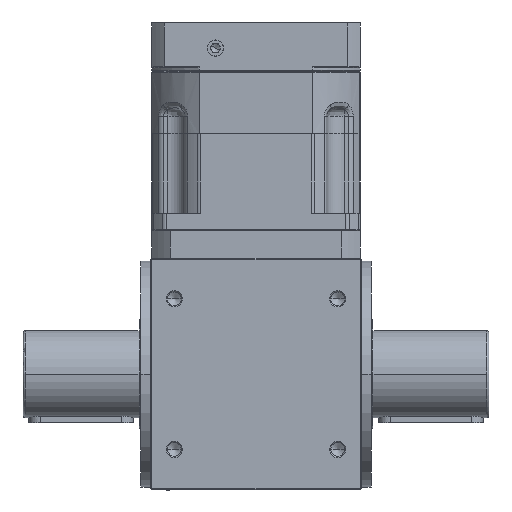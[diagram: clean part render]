
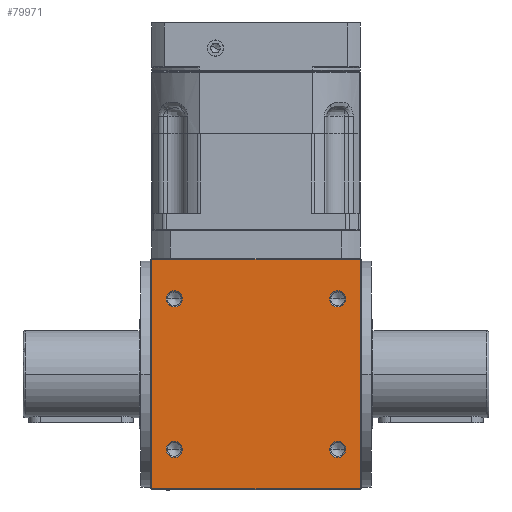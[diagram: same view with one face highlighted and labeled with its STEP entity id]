
A CAD part, front view. The second image highlights one B-rep face of the part: STEP entity #79971.
In plain terms, the highlighted planar face has unit normal (0, -1, 0) as drawn and (0, 0, -1) by its records, which use the part's own axes.
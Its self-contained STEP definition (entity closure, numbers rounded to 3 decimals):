
#1459 = VERTEX_POINT ( 'NONE', #69322 ) ;
#2825 = DIRECTION ( 'NONE',  ( 0., 1., 0. ) ) ;
#3597 = DIRECTION ( 'NONE',  ( -1., 0., 0. ) ) ;
#5202 = DIRECTION ( 'NONE',  ( 0., 0., 1. ) ) ;
#6141 = AXIS2_PLACEMENT_3D ( 'NONE', #101720, #52847, #3597 ) ;
#6817 = VERTEX_POINT ( 'NONE', #40803 ) ;
#8209 = CARTESIAN_POINT ( 'NONE',  ( 91., 99., -100. ) ) ;
#9163 = CIRCLE ( 'NONE', #24795, 7. ) ;
#9370 = LINE ( 'NONE', #75616, #28739 ) ;
#9885 = FACE_BOUND ( 'NONE', #90872, .T. ) ;
#11932 = AXIS2_PLACEMENT_3D ( 'NONE', #37105, #94295, #45365 ) ;
#12690 = ORIENTED_EDGE ( 'NONE', *, *, #91793, .F. ) ;
#18833 = AXIS2_PLACEMENT_3D ( 'NONE', #77046, #28061, #85305 ) ;
#19622 = ORIENTED_EDGE ( 'NONE', *, *, #41857, .F. ) ;
#19852 = CARTESIAN_POINT ( 'NONE',  ( 70.5, 58., -100. ) ) ;
#21478 = PLANE ( 'NONE',  #46522 ) ;
#21693 = EDGE_LOOP ( 'NONE', ( #50658, #68825 ) ) ;
#22073 = VERTEX_POINT ( 'NONE', #35393 ) ;
#22535 = ORIENTED_EDGE ( 'NONE', *, *, #91946, .F. ) ;
#23902 = CIRCLE ( 'NONE', #43076, 7. ) ;
#23982 = DIRECTION ( 'NONE',  ( 0., 0., -1. ) ) ;
#24795 = AXIS2_PLACEMENT_3D ( 'NONE', #27517, #84740, #35659 ) ;
#27517 = CARTESIAN_POINT ( 'NONE',  ( -70.5, 65., -100. ) ) ;
#28061 = DIRECTION ( 'NONE',  ( 0., 0., -1. ) ) ;
#28710 = CIRCLE ( 'NONE', #18833, 7. ) ;
#28739 = VECTOR ( 'NONE', #83854, 1000. ) ;
#30122 = VERTEX_POINT ( 'NONE', #80688 ) ;
#30703 = CARTESIAN_POINT ( 'NONE',  ( 70.5, -65., -100. ) ) ;
#31009 = VERTEX_POINT ( 'NONE', #90063 ) ;
#31199 = EDGE_CURVE ( 'NONE', #40333, #69478, #9163, .T. ) ;
#31782 = FACE_BOUND ( 'NONE', #66604, .T. ) ;
#34110 = LINE ( 'NONE', #45215, #75147 ) ;
#34742 = AXIS2_PLACEMENT_3D ( 'NONE', #100925, #52083, #2825 ) ;
#35393 = CARTESIAN_POINT ( 'NONE',  ( -77.5, -65., -100. ) ) ;
#35659 = DIRECTION ( 'NONE',  ( 0., 1., 0. ) ) ;
#36523 = CARTESIAN_POINT ( 'NONE',  ( -70.5, 72., -100. ) ) ;
#37105 = CARTESIAN_POINT ( 'NONE',  ( 70.5, 65., -100. ) ) ;
#38759 = ORIENTED_EDGE ( 'NONE', *, *, #90375, .F. ) ;
#38922 = DIRECTION ( 'NONE',  ( 0., 1., 0. ) ) ;
#40333 = VERTEX_POINT ( 'NONE', #86059 ) ;
#40803 = CARTESIAN_POINT ( 'NONE',  ( -90., -99., -100. ) ) ;
#41464 = VECTOR ( 'NONE', #78402, 1000. ) ;
#41857 = EDGE_CURVE ( 'NONE', #81345, #100322, #73403, .T. ) ;
#42696 = CIRCLE ( 'NONE', #78485, 7. ) ;
#43076 = AXIS2_PLACEMENT_3D ( 'NONE', #97910, #49044, #106153 ) ;
#44077 = VERTEX_POINT ( 'NONE', #19852 ) ;
#44819 = CARTESIAN_POINT ( 'NONE',  ( 70.5, -72., -100. ) ) ;
#45215 = CARTESIAN_POINT ( 'NONE',  ( 90., 100., -100. ) ) ;
#45365 = DIRECTION ( 'NONE',  ( 0., 1., 0. ) ) ;
#46522 = AXIS2_PLACEMENT_3D ( 'NONE', #54470, #5202, #62684 ) ;
#49044 = DIRECTION ( 'NONE',  ( 0., 0., -1. ) ) ;
#49954 = ORIENTED_EDGE ( 'NONE', *, *, #91643, .F. ) ;
#50658 = ORIENTED_EDGE ( 'NONE', *, *, #93816, .F. ) ;
#52083 = DIRECTION ( 'NONE',  ( 0., 0., -1. ) ) ;
#52512 = CARTESIAN_POINT ( 'NONE',  ( 90., 99., -100. ) ) ;
#52847 = DIRECTION ( 'NONE',  ( 0., 0., -1. ) ) ;
#53493 = DIRECTION ( 'NONE',  ( 0., 1., 0. ) ) ;
#53611 = FACE_BOUND ( 'NONE', #21693, .T. ) ;
#54470 = CARTESIAN_POINT ( 'NONE',  ( 91., 100., -100. ) ) ;
#57326 = CIRCLE ( 'NONE', #34742, 7. ) ;
#61739 = VERTEX_POINT ( 'NONE', #52512 ) ;
#62684 = DIRECTION ( 'NONE',  ( 0., -1., 0. ) ) ;
#65196 = CARTESIAN_POINT ( 'NONE',  ( -90., 99., -100. ) ) ;
#65604 = DIRECTION ( 'NONE',  ( 1., 0., 0. ) ) ;
#65792 = LINE ( 'NONE', #70231, #41464 ) ;
#66604 = EDGE_LOOP ( 'NONE', ( #69854, #69460 ) ) ;
#68825 = ORIENTED_EDGE ( 'NONE', *, *, #103031, .F. ) ;
#69322 = CARTESIAN_POINT ( 'NONE',  ( -63.5, -65., -100. ) ) ;
#69460 = ORIENTED_EDGE ( 'NONE', *, *, #104552, .F. ) ;
#69478 = VERTEX_POINT ( 'NONE', #36523 ) ;
#69854 = ORIENTED_EDGE ( 'NONE', *, *, #92266, .F. ) ;
#70231 = CARTESIAN_POINT ( 'NONE',  ( 91., -99., -100. ) ) ;
#71093 = LINE ( 'NONE', #8209, #104213 ) ;
#72773 = FACE_OUTER_BOUND ( 'NONE', #85728, .T. ) ;
#73027 = CARTESIAN_POINT ( 'NONE',  ( 70.5, -65., -100. ) ) ;
#73403 = CIRCLE ( 'NONE', #74014, 7. ) ;
#74014 = AXIS2_PLACEMENT_3D ( 'NONE', #30703, #87917, #38922 ) ;
#75147 = VECTOR ( 'NONE', #53493, 1000. ) ;
#75616 = CARTESIAN_POINT ( 'NONE',  ( -90., 100., -100. ) ) ;
#77046 = CARTESIAN_POINT ( 'NONE',  ( 70.5, 65., -100. ) ) ;
#78402 = DIRECTION ( 'NONE',  ( 1., 0., 0. ) ) ;
#78485 = AXIS2_PLACEMENT_3D ( 'NONE', #73027, #23982, #81253 ) ;
#79971 = ADVANCED_FACE ( 'NONE', ( #53611, #9885, #31782, #94434, #72773 ), #21478, .F. ) ;
#80688 = CARTESIAN_POINT ( 'NONE',  ( 90., -99., -100. ) ) ;
#81253 = DIRECTION ( 'NONE',  ( 0., 1., 0. ) ) ;
#81345 = VERTEX_POINT ( 'NONE', #44819 ) ;
#83149 = EDGE_LOOP ( 'NONE', ( #22535, #19622 ) ) ;
#83854 = DIRECTION ( 'NONE',  ( 0., -1., 0. ) ) ;
#84740 = DIRECTION ( 'NONE',  ( 0., 0., -1. ) ) ;
#85305 = DIRECTION ( 'NONE',  ( 0., 1., 0. ) ) ;
#85728 = EDGE_LOOP ( 'NONE', ( #49954, #99176, #38759, #12690 ) ) ;
#86059 = CARTESIAN_POINT ( 'NONE',  ( -70.5, 58., -100. ) ) ;
#86613 = CARTESIAN_POINT ( 'NONE',  ( 70.5, -58., -100. ) ) ;
#87917 = DIRECTION ( 'NONE',  ( 0., 0., -1. ) ) ;
#89199 = VERTEX_POINT ( 'NONE', #65196 ) ;
#90063 = CARTESIAN_POINT ( 'NONE',  ( 70.5, 72., -100. ) ) ;
#90375 = EDGE_CURVE ( 'NONE', #30122, #61739, #34110, .T. ) ;
#90872 = EDGE_LOOP ( 'NONE', ( #92571, #98460 ) ) ;
#91643 = EDGE_CURVE ( 'NONE', #89199, #6817, #9370, .T. ) ;
#91793 = EDGE_CURVE ( 'NONE', #6817, #30122, #65792, .T. ) ;
#91946 = EDGE_CURVE ( 'NONE', #100322, #81345, #42696, .T. ) ;
#92266 = EDGE_CURVE ( 'NONE', #31009, #44077, #100072, .T. ) ;
#92571 = ORIENTED_EDGE ( 'NONE', *, *, #93157, .F. ) ;
#93157 = EDGE_CURVE ( 'NONE', #69478, #40333, #57326, .T. ) ;
#93816 = EDGE_CURVE ( 'NONE', #22073, #1459, #23902, .T. ) ;
#94295 = DIRECTION ( 'NONE',  ( 0., 0., -1. ) ) ;
#94434 = FACE_BOUND ( 'NONE', #83149, .T. ) ;
#97910 = CARTESIAN_POINT ( 'NONE',  ( -70.5, -65., -100. ) ) ;
#98460 = ORIENTED_EDGE ( 'NONE', *, *, #31199, .F. ) ;
#99176 = ORIENTED_EDGE ( 'NONE', *, *, #101903, .T. ) ;
#100072 = CIRCLE ( 'NONE', #11932, 7. ) ;
#100322 = VERTEX_POINT ( 'NONE', #86613 ) ;
#100925 = CARTESIAN_POINT ( 'NONE',  ( -70.5, 65., -100. ) ) ;
#101242 = CIRCLE ( 'NONE', #6141, 7. ) ;
#101720 = CARTESIAN_POINT ( 'NONE',  ( -70.5, -65., -100. ) ) ;
#101903 = EDGE_CURVE ( 'NONE', #89199, #61739, #71093, .T. ) ;
#103031 = EDGE_CURVE ( 'NONE', #1459, #22073, #101242, .T. ) ;
#104213 = VECTOR ( 'NONE', #65604, 1000. ) ;
#104552 = EDGE_CURVE ( 'NONE', #44077, #31009, #28710, .T. ) ;
#106153 = DIRECTION ( 'NONE',  ( -1., 0., 0. ) ) ;
